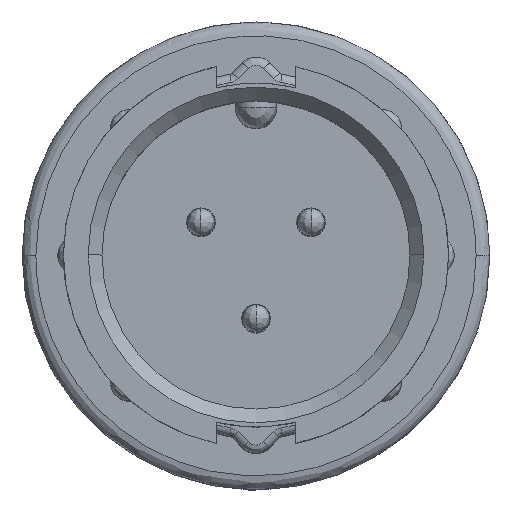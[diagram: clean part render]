
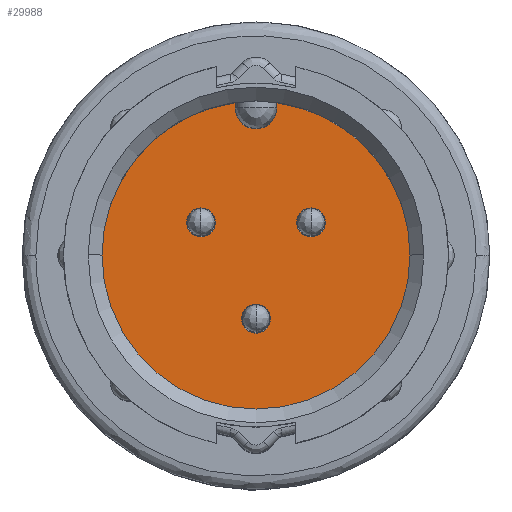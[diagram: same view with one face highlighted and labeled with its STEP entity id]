
A CAD part, top view. The second image highlights one B-rep face of the part: STEP entity #29988.
In plain terms, the highlighted planar face has unit normal (0, 0, 1).
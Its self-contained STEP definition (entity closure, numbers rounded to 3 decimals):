
#118 = CARTESIAN_POINT ( 'NONE',  ( 2., 1.2, -9. ) ) ;
#207 = CARTESIAN_POINT ( 'NONE',  ( 0., 0., -9. ) ) ;
#317 = ORIENTED_EDGE ( 'NONE', *, *, #22710, .T. ) ;
#591 = DIRECTION ( 'NONE',  ( 0., 0., 1. ) ) ;
#1156 = ORIENTED_EDGE ( 'NONE', *, *, #21813, .T. ) ;
#1216 = CARTESIAN_POINT ( 'NONE',  ( 0., -2.3, -9. ) ) ;
#2370 = AXIS2_PLACEMENT_3D ( 'NONE', #207, #13729, #28008 ) ;
#2429 = FACE_BOUND ( 'NONE', #11777, .T. ) ;
#2960 = CARTESIAN_POINT ( 'NONE',  ( 0., 5.35, -9. ) ) ;
#3112 = EDGE_CURVE ( 'NONE', #20399, #24653, #14730, .T. ) ;
#3243 = DIRECTION ( 'NONE',  ( 0., 0., 1. ) ) ;
#3341 = DIRECTION ( 'NONE',  ( 0., 0., 1. ) ) ;
#3619 = CARTESIAN_POINT ( 'NONE',  ( -0.75, 5.35, -9. ) ) ;
#4158 = EDGE_LOOP ( 'NONE', ( #21338, #23200 ) ) ;
#4189 = VERTEX_POINT ( 'NONE', #11604 ) ;
#4391 = ORIENTED_EDGE ( 'NONE', *, *, #28193, .F. ) ;
#4691 = FACE_OUTER_BOUND ( 'NONE', #24486, .T. ) ;
#4951 = DIRECTION ( 'NONE',  ( 1., 0., 0. ) ) ;
#5140 = CARTESIAN_POINT ( 'NONE',  ( -5.824, -5.825, -9. ) ) ;
#5309 = CIRCLE ( 'NONE', #9203, 0.525 ) ;
#5397 = LINE ( 'NONE', #5543, #27558 ) ;
#5404 = CARTESIAN_POINT ( 'NONE',  ( 0., -2.3, -9. ) ) ;
#5507 = EDGE_CURVE ( 'NONE', #24653, #21484, #5924, .T. ) ;
#5543 = CARTESIAN_POINT ( 'NONE',  ( 0.75, -0.026, -9. ) ) ;
#5736 = ORIENTED_EDGE ( 'NONE', *, *, #19459, .T. ) ;
#5924 = CIRCLE ( 'NONE', #13667, 0.75 ) ;
#6527 = ORIENTED_EDGE ( 'NONE', *, *, #3112, .F. ) ;
#6709 = VERTEX_POINT ( 'NONE', #8986 ) ;
#7813 = DIRECTION ( 'NONE',  ( 1., 0., 0. ) ) ;
#8161 = CARTESIAN_POINT ( 'NONE',  ( 0., 0., -9. ) ) ;
#8308 = EDGE_CURVE ( 'NONE', #20557, #25146, #22950, .T. ) ;
#8367 = CARTESIAN_POINT ( 'NONE',  ( -0.75, -0.026, -9. ) ) ;
#8895 = AXIS2_PLACEMENT_3D ( 'NONE', #14358, #12089, #4951 ) ;
#8986 = CARTESIAN_POINT ( 'NONE',  ( -5.6, 0., -9. ) ) ;
#9096 = DIRECTION ( 'NONE',  ( 0., 0., 1. ) ) ;
#9203 = AXIS2_PLACEMENT_3D ( 'NONE', #5404, #28493, #25758 ) ;
#9224 = AXIS2_PLACEMENT_3D ( 'NONE', #1216, #3341, #19425 ) ;
#9549 = PLANE ( 'NONE',  #16552 ) ;
#11047 = EDGE_CURVE ( 'NONE', #20934, #15132, #15806, .T. ) ;
#11138 = ORIENTED_EDGE ( 'NONE', *, *, #8308, .F. ) ;
#11604 = CARTESIAN_POINT ( 'NONE',  ( 5.6, 0., -9. ) ) ;
#11777 = EDGE_LOOP ( 'NONE', ( #11138, #20547 ) ) ;
#12089 = DIRECTION ( 'NONE',  ( 0., 0., 1. ) ) ;
#12489 = DIRECTION ( 'NONE',  ( 1., 0., 0. ) ) ;
#13573 = CIRCLE ( 'NONE', #9224, 0.525 ) ;
#13667 = AXIS2_PLACEMENT_3D ( 'NONE', #2960, #23899, #7813 ) ;
#13729 = DIRECTION ( 'NONE',  ( 0., 0., 1. ) ) ;
#13935 = AXIS2_PLACEMENT_3D ( 'NONE', #19475, #3243, #12489 ) ;
#14358 = CARTESIAN_POINT ( 'NONE',  ( -2., 1.2, -9. ) ) ;
#14730 = LINE ( 'NONE', #8367, #20892 ) ;
#14883 = DIRECTION ( 'NONE',  ( 0., -1., 0. ) ) ;
#15125 = CARTESIAN_POINT ( 'NONE',  ( 1.475, 1.2, -9. ) ) ;
#15132 = VERTEX_POINT ( 'NONE', #15125 ) ;
#15133 = DIRECTION ( 'NONE',  ( 0., 0., 1. ) ) ;
#15173 = CARTESIAN_POINT ( 'NONE',  ( -0.525, -2.3, -9. ) ) ;
#15410 = CIRCLE ( 'NONE', #29496, 5.6 ) ;
#15772 = ORIENTED_EDGE ( 'NONE', *, *, #24887, .F. ) ;
#15806 = CIRCLE ( 'NONE', #27939, 0.525 ) ;
#16552 = AXIS2_PLACEMENT_3D ( 'NONE', #5140, #591, #21541 ) ;
#17048 = VERTEX_POINT ( 'NONE', #15173 ) ;
#17111 = CARTESIAN_POINT ( 'NONE',  ( 0.75, 5.55, -9. ) ) ;
#17122 = CARTESIAN_POINT ( 'NONE',  ( -0.75, 5.55, -9. ) ) ;
#17897 = AXIS2_PLACEMENT_3D ( 'NONE', #20952, #25803, #18809 ) ;
#17991 = CARTESIAN_POINT ( 'NONE',  ( -2.525, 1.2, -9. ) ) ;
#18516 = FACE_BOUND ( 'NONE', #28830, .T. ) ;
#18637 = DIRECTION ( 'NONE',  ( 1., 0., 0. ) ) ;
#18809 = DIRECTION ( 'NONE',  ( 1., 0., 0. ) ) ;
#19245 = CARTESIAN_POINT ( 'NONE',  ( 0.75, 5.35, -9. ) ) ;
#19256 = EDGE_CURVE ( 'NONE', #25146, #20557, #24600, .T. ) ;
#19425 = DIRECTION ( 'NONE',  ( 1., 0., 0. ) ) ;
#19459 = EDGE_CURVE ( 'NONE', #20399, #6709, #15410, .T. ) ;
#19475 = CARTESIAN_POINT ( 'NONE',  ( -2., 1.2, -9. ) ) ;
#20207 = ORIENTED_EDGE ( 'NONE', *, *, #20771, .F. ) ;
#20399 = VERTEX_POINT ( 'NONE', #17122 ) ;
#20547 = ORIENTED_EDGE ( 'NONE', *, *, #19256, .F. ) ;
#20557 = VERTEX_POINT ( 'NONE', #26238 ) ;
#20771 = EDGE_CURVE ( 'NONE', #21484, #23812, #5397, .T. ) ;
#20827 = VERTEX_POINT ( 'NONE', #24066 ) ;
#20892 = VECTOR ( 'NONE', #14883, 1000. ) ;
#20934 = VERTEX_POINT ( 'NONE', #24665 ) ;
#20952 = CARTESIAN_POINT ( 'NONE',  ( 0., 0., -9. ) ) ;
#21338 = ORIENTED_EDGE ( 'NONE', *, *, #11047, .F. ) ;
#21392 = FACE_BOUND ( 'NONE', #4158, .T. ) ;
#21484 = VERTEX_POINT ( 'NONE', #19245 ) ;
#21541 = DIRECTION ( 'NONE',  ( 1., 0., 0. ) ) ;
#21813 = EDGE_CURVE ( 'NONE', #6709, #4189, #29060, .T. ) ;
#21950 = DIRECTION ( 'NONE',  ( 0., 1., 0. ) ) ;
#22710 = EDGE_CURVE ( 'NONE', #4189, #23812, #30046, .T. ) ;
#22729 = ORIENTED_EDGE ( 'NONE', *, *, #5507, .F. ) ;
#22950 = CIRCLE ( 'NONE', #8895, 0.525 ) ;
#23200 = ORIENTED_EDGE ( 'NONE', *, *, #28919, .F. ) ;
#23812 = VERTEX_POINT ( 'NONE', #17111 ) ;
#23899 = DIRECTION ( 'NONE',  ( 0., 0., 1. ) ) ;
#24066 = CARTESIAN_POINT ( 'NONE',  ( 0.525, -2.3, -9. ) ) ;
#24486 = EDGE_LOOP ( 'NONE', ( #5736, #1156, #317, #20207, #22729, #6527 ) ) ;
#24600 = CIRCLE ( 'NONE', #13935, 0.525 ) ;
#24653 = VERTEX_POINT ( 'NONE', #3619 ) ;
#24665 = CARTESIAN_POINT ( 'NONE',  ( 2.525, 1.2, -9. ) ) ;
#24849 = DIRECTION ( 'NONE',  ( 1., 0., 0. ) ) ;
#24887 = EDGE_CURVE ( 'NONE', #20827, #17048, #5309, .T. ) ;
#25071 = DIRECTION ( 'NONE',  ( 1., 0., 0. ) ) ;
#25146 = VERTEX_POINT ( 'NONE', #17991 ) ;
#25240 = AXIS2_PLACEMENT_3D ( 'NONE', #27353, #26763, #25071 ) ;
#25758 = DIRECTION ( 'NONE',  ( 1., 0., 0. ) ) ;
#25803 = DIRECTION ( 'NONE',  ( 0., 0., 1. ) ) ;
#26213 = CIRCLE ( 'NONE', #25240, 0.525 ) ;
#26238 = CARTESIAN_POINT ( 'NONE',  ( -1.475, 1.2, -9. ) ) ;
#26763 = DIRECTION ( 'NONE',  ( 0., 0., 1. ) ) ;
#27353 = CARTESIAN_POINT ( 'NONE',  ( 2., 1.2, -9. ) ) ;
#27558 = VECTOR ( 'NONE', #21950, 1000. ) ;
#27939 = AXIS2_PLACEMENT_3D ( 'NONE', #118, #9096, #18637 ) ;
#28008 = DIRECTION ( 'NONE',  ( 1., 0., 0. ) ) ;
#28193 = EDGE_CURVE ( 'NONE', #17048, #20827, #13573, .T. ) ;
#28493 = DIRECTION ( 'NONE',  ( 0., 0., 1. ) ) ;
#28830 = EDGE_LOOP ( 'NONE', ( #15772, #4391 ) ) ;
#28919 = EDGE_CURVE ( 'NONE', #15132, #20934, #26213, .T. ) ;
#29060 = CIRCLE ( 'NONE', #2370, 5.6 ) ;
#29496 = AXIS2_PLACEMENT_3D ( 'NONE', #8161, #15133, #24849 ) ;
#29988 = ADVANCED_FACE ( 'NONE', ( #18516, #21392, #2429, #4691 ), #9549, .T. ) ;
#30046 = CIRCLE ( 'NONE', #17897, 5.6 ) ;
